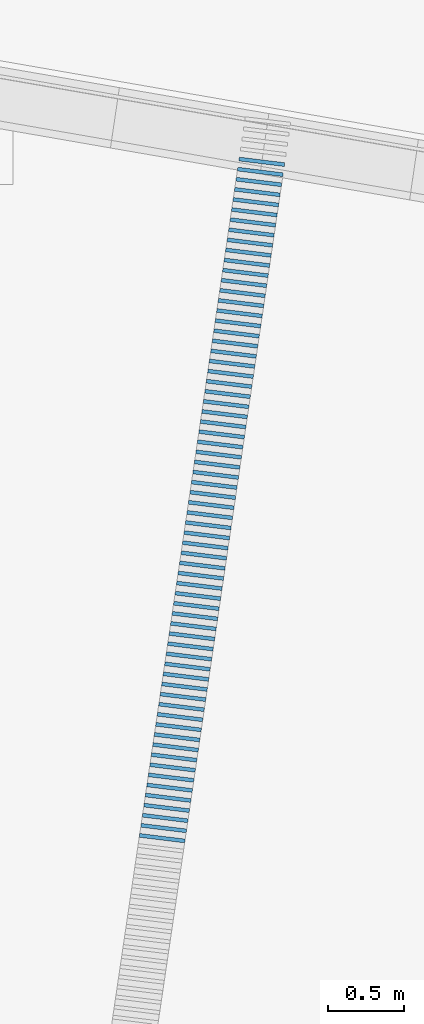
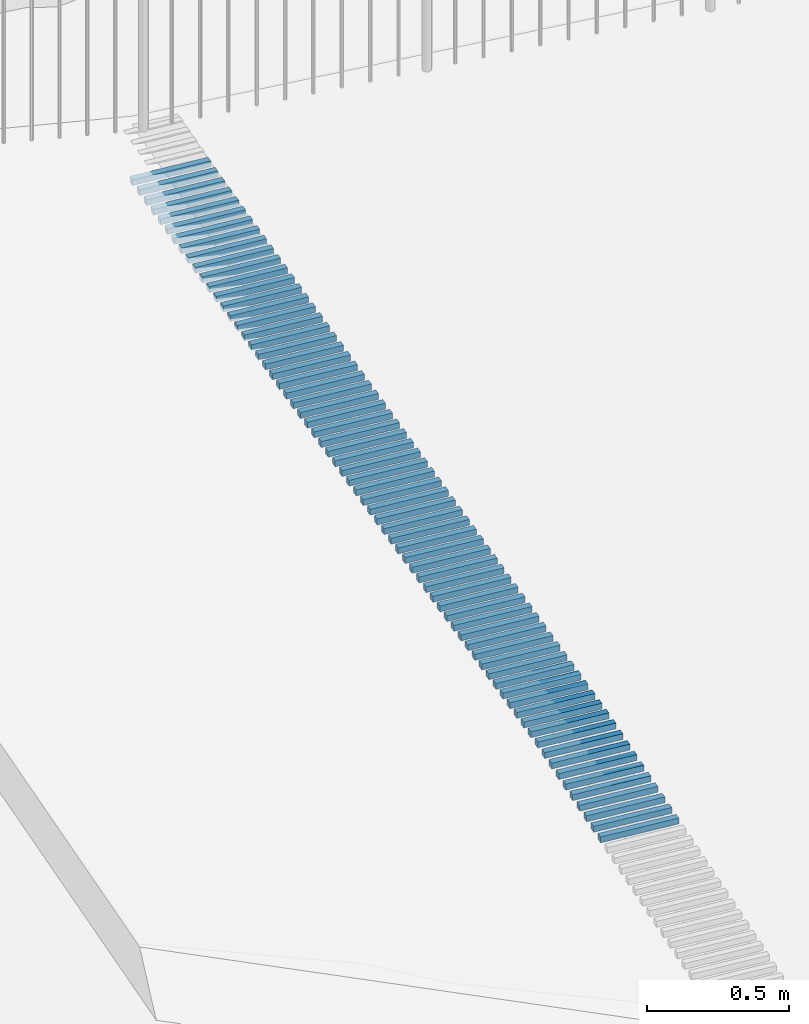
# Not in any storey, part 2 of 45: 68 members.
"""IFC4 model written with IfcOpenShell, lengths in metres."""

from ifc_helpers import new_model, si_unit, direction, frame, origin_with_axes, place, context, subcontext, project, spatial, rectangle, extrude, material, material_profile, profile_set, profile_usage, type_object, element, save


model = new_model("IFC4")

# Units and contexts
model_context = context("Model", 3, precision=1e-05, world=origin_with_axes(), true_north=direction((0.0, 1.0)))
body_context = subcontext(model_context, "Body", "Model", "MODEL_VIEW")
ifc_project = project(units=[si_unit("VOLUMEUNIT", "CUBIC_METRE"), si_unit("LENGTHUNIT", "METRE"), si_unit("AREAUNIT", "SQUARE_METRE")], contexts=[model_context])

# Site
site_placement = place(None, origin_with_axes())
site = spatial("IfcSite", under=ifc_project, at=site_placement, Name="Lares · Rua das Mercês · artigo 4771")

# Members
ifc_material = material(Name="Aço galvanizado / Stahl verzinkt", Category="steel")
ifc_material_profile = material_profile(ifc_material, rectangle(XDim=0.025, YDim=0.025))
ifc_profile_set = profile_set([ifc_material_profile], Name="R0.025")
ifc_profile_usage_1 = profile_usage(ifc_profile_set)
member_type = type_object("IfcMemberType", Name="R0.025 / galvanized", PredefinedType="NOTDEFINED", material=ifc_profile_set)
member_1_placement = place(site_placement, frame((49.015085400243, 6.59258553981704, 15.5699738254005), z_axis=(0.992517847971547, -0.12209963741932, 0.0), x_axis=(-0.12209963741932, -0.992517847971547, 0.0)))
element("IfcMember", 1, at=member_1_placement, inside=site, type_object=member_type, material=ifc_profile_usage_1, Name="Interceção · grelha estacionamento", context=body_context, shape_type="SweptSolid", body=[
    extrude(rectangle(XDim=0.025, YDim=0.025), origin_with_axes(), (0.0, 0.0, 1.0), 0.300000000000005),
])
ifc_profile_usage_2 = profile_usage(ifc_profile_set)
member_2_placement = place(site_placement, frame((49.0248366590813, 6.65880872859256, 15.5718488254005), z_axis=(0.992517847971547, -0.12209963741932, 0.0), x_axis=(-0.12209963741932, -0.992517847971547, 0.0)))
element("IfcMember", 2, at=member_2_placement, inside=site, type_object=member_type, material=ifc_profile_usage_2, Name="Interceção · grelha estacionamento", context=body_context, shape_type="SweptSolid", body=[
    extrude(rectangle(XDim=0.025, YDim=0.025), origin_with_axes(), (0.0, 0.0, 1.0), 0.300000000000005),
])
ifc_profile_usage_3 = profile_usage(ifc_profile_set)
member_3_placement = place(site_placement, frame((49.0345879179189, 6.7250319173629, 15.5737238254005), z_axis=(0.992517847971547, -0.12209963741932, 0.0), x_axis=(-0.12209963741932, -0.992517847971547, 0.0)))
element("IfcMember", 3, at=member_3_placement, inside=site, type_object=member_type, material=ifc_profile_usage_3, Name="Interceção · grelha estacionamento", context=body_context, shape_type="SweptSolid", body=[
    extrude(rectangle(XDim=0.025, YDim=0.025), origin_with_axes(), (0.0, 0.0, 1.0), 0.300000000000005),
])
ifc_profile_usage_4 = profile_usage(ifc_profile_set)
member_4_placement = place(site_placement, frame((49.0443391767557, 6.79125510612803, 15.5755988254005), z_axis=(0.992517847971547, -0.12209963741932, 0.0), x_axis=(-0.12209963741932, -0.992517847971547, 0.0)))
element("IfcMember", 4, at=member_4_placement, inside=site, type_object=member_type, material=ifc_profile_usage_4, Name="Interceção · grelha estacionamento", context=body_context, shape_type="SweptSolid", body=[
    extrude(rectangle(XDim=0.025, YDim=0.025), origin_with_axes(), (0.0, 0.0, 1.0), 0.300000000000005),
])
ifc_profile_usage_5 = profile_usage(ifc_profile_set)
member_5_placement = place(site_placement, frame((49.0540904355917, 6.85747829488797, 15.5774738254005), z_axis=(0.992517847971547, -0.12209963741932, 0.0), x_axis=(-0.12209963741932, -0.992517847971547, 0.0)))
element("IfcMember", 5, at=member_5_placement, inside=site, type_object=member_type, material=ifc_profile_usage_5, Name="Interceção · grelha estacionamento", context=body_context, shape_type="SweptSolid", body=[
    extrude(rectangle(XDim=0.025, YDim=0.025), origin_with_axes(), (0.0, 0.0, 1.0), 0.300000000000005),
])
ifc_profile_usage_6 = profile_usage(ifc_profile_set)
member_6_placement = place(site_placement, frame((49.063841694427, 6.92370148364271, 15.5793488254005), z_axis=(0.992517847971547, -0.12209963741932, 0.0), x_axis=(-0.12209963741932, -0.992517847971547, 0.0)))
element("IfcMember", 6, at=member_6_placement, inside=site, type_object=member_type, material=ifc_profile_usage_6, Name="Interceção · grelha estacionamento", context=body_context, shape_type="SweptSolid", body=[
    extrude(rectangle(XDim=0.025, YDim=0.025), origin_with_axes(), (0.0, 0.0, 1.0), 0.300000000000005),
])
ifc_profile_usage_7 = profile_usage(ifc_profile_set)
member_7_placement = place(site_placement, frame((49.0735929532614, 6.98992467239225, 15.5812238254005), z_axis=(0.992517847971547, -0.12209963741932, 0.0), x_axis=(-0.12209963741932, -0.992517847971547, 0.0)))
element("IfcMember", 7, at=member_7_placement, inside=site, type_object=member_type, material=ifc_profile_usage_7, Name="Interceção · grelha estacionamento", context=body_context, shape_type="SweptSolid", body=[
    extrude(rectangle(XDim=0.025, YDim=0.025), origin_with_axes(), (0.0, 0.0, 1.0), 0.300000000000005),
])
ifc_profile_usage_8 = profile_usage(ifc_profile_set)
member_8_placement = place(site_placement, frame((49.0833442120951, 7.05614786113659, 15.5830988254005), z_axis=(0.992517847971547, -0.12209963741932, 0.0), x_axis=(-0.12209963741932, -0.992517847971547, 0.0)))
element("IfcMember", 8, at=member_8_placement, inside=site, type_object=member_type, material=ifc_profile_usage_8, Name="Interceção · grelha estacionamento", context=body_context, shape_type="SweptSolid", body=[
    extrude(rectangle(XDim=0.025, YDim=0.025), origin_with_axes(), (0.0, 0.0, 1.0), 0.300000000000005),
])
ifc_profile_usage_9 = profile_usage(ifc_profile_set)
member_9_placement = place(site_placement, frame((49.0930954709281, 7.12237104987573, 15.5849738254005), z_axis=(0.992517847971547, -0.12209963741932, 0.0), x_axis=(-0.12209963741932, -0.992517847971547, 0.0)))
element("IfcMember", 9, at=member_9_placement, inside=site, type_object=member_type, material=ifc_profile_usage_9, Name="Interceção · grelha estacionamento", context=body_context, shape_type="SweptSolid", body=[
    extrude(rectangle(XDim=0.025, YDim=0.025), origin_with_axes(), (0.0, 0.0, 1.0), 0.300000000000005),
])
ifc_profile_usage_10 = profile_usage(ifc_profile_set)
member_10_placement = place(site_placement, frame((49.1028467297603, 7.18859423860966, 15.5868488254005), z_axis=(0.992517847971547, -0.12209963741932, 0.0), x_axis=(-0.12209963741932, -0.992517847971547, 0.0)))
element("IfcMember", 10, at=member_10_placement, inside=site, type_object=member_type, material=ifc_profile_usage_10, Name="Interceção · grelha estacionamento", context=body_context, shape_type="SweptSolid", body=[
    extrude(rectangle(XDim=0.025, YDim=0.025), origin_with_axes(), (0.0, 0.0, 1.0), 0.300000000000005),
])
ifc_profile_usage_11 = profile_usage(ifc_profile_set)
member_11_placement = place(site_placement, frame((49.1125979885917, 7.25481742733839, 15.5872761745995), z_axis=(0.992517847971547, -0.12209963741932, 0.0), x_axis=(-0.12209963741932, -0.992517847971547, 0.0)))
element("IfcMember", 11, at=member_11_placement, inside=site, type_object=member_type, material=ifc_profile_usage_11, Name="Interceção · grelha estacionamento", context=body_context, shape_type="SweptSolid", body=[
    extrude(rectangle(XDim=0.025, YDim=0.025), origin_with_axes(), (0.0, 0.0, 1.0), 0.300000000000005),
])
ifc_profile_usage_12 = profile_usage(ifc_profile_set)
member_12_placement = place(site_placement, frame((49.1223492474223, 7.32104061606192, 15.5854011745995), z_axis=(0.992517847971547, -0.12209963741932, 0.0), x_axis=(-0.12209963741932, -0.992517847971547, 0.0)))
element("IfcMember", 12, at=member_12_placement, inside=site, type_object=member_type, material=ifc_profile_usage_12, Name="Interceção · grelha estacionamento", context=body_context, shape_type="SweptSolid", body=[
    extrude(rectangle(XDim=0.025, YDim=0.025), origin_with_axes(), (0.0, 0.0, 1.0), 0.300000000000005),
])
ifc_profile_usage_13 = profile_usage(ifc_profile_set)
member_13_placement = place(site_placement, frame((49.1321005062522, 7.38726380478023, 15.5835261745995), z_axis=(0.992517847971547, -0.12209963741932, 0.0), x_axis=(-0.12209963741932, -0.992517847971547, 0.0)))
element("IfcMember", 13, at=member_13_placement, inside=site, type_object=member_type, material=ifc_profile_usage_13, Name="Interceção · grelha estacionamento", context=body_context, shape_type="SweptSolid", body=[
    extrude(rectangle(XDim=0.025, YDim=0.025), origin_with_axes(), (0.0, 0.0, 1.0), 0.300000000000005),
])
ifc_profile_usage_14 = profile_usage(ifc_profile_set)
member_14_placement = place(site_placement, frame((49.1418517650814, 7.45348699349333, 15.5816511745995), z_axis=(0.992517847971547, -0.12209963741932, 0.0), x_axis=(-0.12209963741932, -0.992517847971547, 0.0)))
element("IfcMember", 14, at=member_14_placement, inside=site, type_object=member_type, material=ifc_profile_usage_14, Name="Interceção · grelha estacionamento", context=body_context, shape_type="SweptSolid", body=[
    extrude(rectangle(XDim=0.025, YDim=0.025), origin_with_axes(), (0.0, 0.0, 1.0), 0.300000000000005),
])
ifc_profile_usage_15 = profile_usage(ifc_profile_set)
member_15_placement = place(site_placement, frame((49.1516030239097, 7.51971018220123, 15.5797761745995), z_axis=(0.992517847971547, -0.12209963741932, 0.0), x_axis=(-0.12209963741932, -0.992517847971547, 0.0)))
element("IfcMember", 15, at=member_15_placement, inside=site, type_object=member_type, material=ifc_profile_usage_15, Name="Interceção · grelha estacionamento", context=body_context, shape_type="SweptSolid", body=[
    extrude(rectangle(XDim=0.025, YDim=0.025), origin_with_axes(), (0.0, 0.0, 1.0), 0.300000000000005),
])
ifc_profile_usage_16 = profile_usage(ifc_profile_set)
member_16_placement = place(site_placement, frame((49.1613542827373, 7.58593337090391, 15.5779011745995), z_axis=(0.992517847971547, -0.12209963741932, 0.0), x_axis=(-0.12209963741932, -0.992517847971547, 0.0)))
element("IfcMember", 16, at=member_16_placement, inside=site, type_object=member_type, material=ifc_profile_usage_16, Name="Interceção · grelha estacionamento", context=body_context, shape_type="SweptSolid", body=[
    extrude(rectangle(XDim=0.025, YDim=0.025), origin_with_axes(), (0.0, 0.0, 1.0), 0.300000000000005),
])
ifc_profile_usage_17 = profile_usage(ifc_profile_set)
member_17_placement = place(site_placement, frame((49.1711055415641, 7.65215655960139, 15.5760261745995), z_axis=(0.992517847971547, -0.12209963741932, 0.0), x_axis=(-0.12209963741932, -0.992517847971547, 0.0)))
element("IfcMember", 17, at=member_17_placement, inside=site, type_object=member_type, material=ifc_profile_usage_17, Name="Interceção · grelha estacionamento", context=body_context, shape_type="SweptSolid", body=[
    extrude(rectangle(XDim=0.025, YDim=0.025), origin_with_axes(), (0.0, 0.0, 1.0), 0.300000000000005),
])
ifc_profile_usage_18 = profile_usage(ifc_profile_set)
member_18_placement = place(site_placement, frame((49.1808568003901, 7.71837974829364, 15.5741511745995), z_axis=(0.992517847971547, -0.12209963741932, 0.0), x_axis=(-0.12209963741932, -0.992517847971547, 0.0)))
element("IfcMember", 18, at=member_18_placement, inside=site, type_object=member_type, material=ifc_profile_usage_18, Name="Interceção · grelha estacionamento", context=body_context, shape_type="SweptSolid", body=[
    extrude(rectangle(XDim=0.025, YDim=0.025), origin_with_axes(), (0.0, 0.0, 1.0), 0.300000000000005),
])
ifc_profile_usage_19 = profile_usage(ifc_profile_set)
member_19_placement = place(site_placement, frame((49.1906080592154, 7.78460293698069, 15.5722761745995), z_axis=(0.992517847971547, -0.12209963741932, 0.0), x_axis=(-0.12209963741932, -0.992517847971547, 0.0)))
element("IfcMember", 19, at=member_19_placement, inside=site, type_object=member_type, material=ifc_profile_usage_19, Name="Interceção · grelha estacionamento", context=body_context, shape_type="SweptSolid", body=[
    extrude(rectangle(XDim=0.025, YDim=0.025), origin_with_axes(), (0.0, 0.0, 1.0), 0.300000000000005),
])
ifc_profile_usage_20 = profile_usage(ifc_profile_set)
member_20_placement = place(site_placement, frame((49.2003593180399, 7.85082612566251, 15.5704011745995), z_axis=(0.992517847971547, -0.12209963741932, 0.0), x_axis=(-0.12209963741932, -0.992517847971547, 0.0)))
element("IfcMember", 20, at=member_20_placement, inside=site, type_object=member_type, material=ifc_profile_usage_20, Name="Interceção · grelha estacionamento", context=body_context, shape_type="SweptSolid", body=[
    extrude(rectangle(XDim=0.025, YDim=0.025), origin_with_axes(), (0.0, 0.0, 1.0), 0.300000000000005),
])
ifc_profile_usage_21 = profile_usage(ifc_profile_set)
member_21_placement = place(site_placement, frame((49.2101105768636, 7.91704931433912, 15.5685261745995), z_axis=(0.992517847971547, -0.12209963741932, 0.0), x_axis=(-0.12209963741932, -0.992517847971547, 0.0)))
element("IfcMember", 21, at=member_21_placement, inside=site, type_object=member_type, material=ifc_profile_usage_21, Name="Interceção · grelha estacionamento", context=body_context, shape_type="SweptSolid", body=[
    extrude(rectangle(XDim=0.025, YDim=0.025), origin_with_axes(), (0.0, 0.0, 1.0), 0.300000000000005),
])
ifc_profile_usage_22 = profile_usage(ifc_profile_set)
member_22_placement = place(site_placement, frame((49.2198618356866, 7.98327250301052, 15.5666511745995), z_axis=(0.992517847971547, -0.12209963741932, 0.0), x_axis=(-0.12209963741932, -0.992517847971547, 0.0)))
element("IfcMember", 22, at=member_22_placement, inside=site, type_object=member_type, material=ifc_profile_usage_22, Name="Interceção · grelha estacionamento", context=body_context, shape_type="SweptSolid", body=[
    extrude(rectangle(XDim=0.025, YDim=0.025), origin_with_axes(), (0.0, 0.0, 1.0), 0.300000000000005),
])
ifc_profile_usage_23 = profile_usage(ifc_profile_set)
member_23_placement = place(site_placement, frame((49.2296130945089, 8.04949569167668, 15.5647761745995), z_axis=(0.992517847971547, -0.12209963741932, 0.0), x_axis=(-0.12209963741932, -0.992517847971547, 0.0)))
element("IfcMember", 23, at=member_23_placement, inside=site, type_object=member_type, material=ifc_profile_usage_23, Name="Interceção · grelha estacionamento", context=body_context, shape_type="SweptSolid", body=[
    extrude(rectangle(XDim=0.025, YDim=0.025), origin_with_axes(), (0.0, 0.0, 1.0), 0.300000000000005),
])
ifc_profile_usage_24 = profile_usage(ifc_profile_set)
member_24_placement = place(site_placement, frame((49.2393643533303, 8.11571888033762, 15.5629011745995), z_axis=(0.992517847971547, -0.12209963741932, 0.0), x_axis=(-0.12209963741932, -0.992517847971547, 0.0)))
element("IfcMember", 24, at=member_24_placement, inside=site, type_object=member_type, material=ifc_profile_usage_24, Name="Interceção · grelha estacionamento", context=body_context, shape_type="SweptSolid", body=[
    extrude(rectangle(XDim=0.025, YDim=0.025), origin_with_axes(), (0.0, 0.0, 1.0), 0.300000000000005),
])
ifc_profile_usage_25 = profile_usage(ifc_profile_set)
member_25_placement = place(site_placement, frame((49.249115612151, 8.18194206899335, 15.5610261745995), z_axis=(0.992517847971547, -0.12209963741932, 0.0), x_axis=(-0.12209963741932, -0.992517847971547, 0.0)))
element("IfcMember", 25, at=member_25_placement, inside=site, type_object=member_type, material=ifc_profile_usage_25, Name="Interceção · grelha estacionamento", context=body_context, shape_type="SweptSolid", body=[
    extrude(rectangle(XDim=0.025, YDim=0.025), origin_with_axes(), (0.0, 0.0, 1.0), 0.300000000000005),
])
ifc_profile_usage_26 = profile_usage(ifc_profile_set)
member_26_placement = place(site_placement, frame((49.2588668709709, 8.24816525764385, 15.5591511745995), z_axis=(0.992517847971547, -0.12209963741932, 0.0), x_axis=(-0.12209963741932, -0.992517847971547, 0.0)))
element("IfcMember", 26, at=member_26_placement, inside=site, type_object=member_type, material=ifc_profile_usage_26, Name="Interceção · grelha estacionamento", context=body_context, shape_type="SweptSolid", body=[
    extrude(rectangle(XDim=0.025, YDim=0.025), origin_with_axes(), (0.0, 0.0, 1.0), 0.300000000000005),
])
ifc_profile_usage_27 = profile_usage(ifc_profile_set)
member_27_placement = place(site_placement, frame((49.26861812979, 8.31438844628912, 15.5572761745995), z_axis=(0.992517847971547, -0.12209963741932, 0.0), x_axis=(-0.12209963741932, -0.992517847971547, 0.0)))
element("IfcMember", 27, at=member_27_placement, inside=site, type_object=member_type, material=ifc_profile_usage_27, Name="Interceção · grelha estacionamento", context=body_context, shape_type="SweptSolid", body=[
    extrude(rectangle(XDim=0.025, YDim=0.025), origin_with_axes(), (0.0, 0.0, 1.0), 0.300000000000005),
])
ifc_profile_usage_28 = profile_usage(ifc_profile_set)
member_28_placement = place(site_placement, frame((49.2783693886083, 8.38061163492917, 15.5554011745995), z_axis=(0.992517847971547, -0.12209963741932, 0.0), x_axis=(-0.12209963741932, -0.992517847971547, 0.0)))
element("IfcMember", 28, at=member_28_placement, inside=site, type_object=member_type, material=ifc_profile_usage_28, Name="Interceção · grelha estacionamento", context=body_context, shape_type="SweptSolid", body=[
    extrude(rectangle(XDim=0.025, YDim=0.025), origin_with_axes(), (0.0, 0.0, 1.0), 0.300000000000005),
])
ifc_profile_usage_29 = profile_usage(ifc_profile_set)
member_29_placement = place(site_placement, frame((49.2881206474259, 8.44683482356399, 15.5535261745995), z_axis=(0.992517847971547, -0.12209963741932, 0.0), x_axis=(-0.12209963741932, -0.992517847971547, 0.0)))
element("IfcMember", 29, at=member_29_placement, inside=site, type_object=member_type, material=ifc_profile_usage_29, Name="Interceção · grelha estacionamento", context=body_context, shape_type="SweptSolid", body=[
    extrude(rectangle(XDim=0.025, YDim=0.025), origin_with_axes(), (0.0, 0.0, 1.0), 0.300000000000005),
])
ifc_profile_usage_30 = profile_usage(ifc_profile_set)
member_30_placement = place(site_placement, frame((49.2978719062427, 8.51305801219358, 15.5516511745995), z_axis=(0.992517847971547, -0.12209963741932, 0.0), x_axis=(-0.12209963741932, -0.992517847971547, 0.0)))
element("IfcMember", 30, at=member_30_placement, inside=site, type_object=member_type, material=ifc_profile_usage_30, Name="Interceção · grelha estacionamento", context=body_context, shape_type="SweptSolid", body=[
    extrude(rectangle(XDim=0.025, YDim=0.025), origin_with_axes(), (0.0, 0.0, 1.0), 0.300000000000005),
])
ifc_profile_usage_31 = profile_usage(ifc_profile_set)
member_31_placement = place(site_placement, frame((49.3076231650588, 8.57928120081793, 15.5497761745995), z_axis=(0.992517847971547, -0.12209963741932, 0.0), x_axis=(-0.12209963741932, -0.992517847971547, 0.0)))
element("IfcMember", 31, at=member_31_placement, inside=site, type_object=member_type, material=ifc_profile_usage_31, Name="Interceção · grelha estacionamento", context=body_context, shape_type="SweptSolid", body=[
    extrude(rectangle(XDim=0.025, YDim=0.025), origin_with_axes(), (0.0, 0.0, 1.0), 0.300000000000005),
])
ifc_profile_usage_32 = profile_usage(ifc_profile_set)
member_32_placement = place(site_placement, frame((49.3173744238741, 8.64550438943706, 15.5479011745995), z_axis=(0.992517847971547, -0.12209963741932, 0.0), x_axis=(-0.12209963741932, -0.992517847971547, 0.0)))
element("IfcMember", 32, at=member_32_placement, inside=site, type_object=member_type, material=ifc_profile_usage_32, Name="Interceção · grelha estacionamento", context=body_context, shape_type="SweptSolid", body=[
    extrude(rectangle(XDim=0.025, YDim=0.025), origin_with_axes(), (0.0, 0.0, 1.0), 0.300000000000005),
])
ifc_profile_usage_33 = profile_usage(ifc_profile_set)
member_33_placement = place(site_placement, frame((49.3271256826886, 8.71172757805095, 15.5460261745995), z_axis=(0.992517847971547, -0.12209963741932, 0.0), x_axis=(-0.12209963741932, -0.992517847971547, 0.0)))
element("IfcMember", 33, at=member_33_placement, inside=site, type_object=member_type, material=ifc_profile_usage_33, Name="Interceção · grelha estacionamento", context=body_context, shape_type="SweptSolid", body=[
    extrude(rectangle(XDim=0.025, YDim=0.025), origin_with_axes(), (0.0, 0.0, 1.0), 0.300000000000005),
])
ifc_profile_usage_34 = profile_usage(ifc_profile_set)
member_34_placement = place(site_placement, frame((49.3368769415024, 8.7779507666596, 15.5441511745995), z_axis=(0.992517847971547, -0.12209963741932, 0.0), x_axis=(-0.12209963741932, -0.992517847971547, 0.0)))
element("IfcMember", 34, at=member_34_placement, inside=site, type_object=member_type, material=ifc_profile_usage_34, Name="Interceção · grelha estacionamento", context=body_context, shape_type="SweptSolid", body=[
    extrude(rectangle(XDim=0.025, YDim=0.025), origin_with_axes(), (0.0, 0.0, 1.0), 0.300000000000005),
])
ifc_profile_usage_35 = profile_usage(ifc_profile_set)
member_35_placement = place(site_placement, frame((49.3466282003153, 8.84417395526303, 15.5422761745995), z_axis=(0.992517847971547, -0.12209963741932, 0.0), x_axis=(-0.12209963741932, -0.992517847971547, 0.0)))
element("IfcMember", 35, at=member_35_placement, inside=site, type_object=member_type, material=ifc_profile_usage_35, Name="Interceção · grelha estacionamento", context=body_context, shape_type="SweptSolid", body=[
    extrude(rectangle(XDim=0.025, YDim=0.025), origin_with_axes(), (0.0, 0.0, 1.0), 0.300000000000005),
])
ifc_profile_usage_36 = profile_usage(ifc_profile_set)
member_36_placement = place(site_placement, frame((49.3563794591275, 8.91039714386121, 15.5404011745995), z_axis=(0.992517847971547, -0.12209963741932, 0.0), x_axis=(-0.12209963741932, -0.992517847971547, 0.0)))
element("IfcMember", 36, at=member_36_placement, inside=site, type_object=member_type, material=ifc_profile_usage_36, Name="Interceção · grelha estacionamento", context=body_context, shape_type="SweptSolid", body=[
    extrude(rectangle(XDim=0.025, YDim=0.025), origin_with_axes(), (0.0, 0.0, 1.0), 0.300000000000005),
])
ifc_profile_usage_37 = profile_usage(ifc_profile_set)
member_37_placement = place(site_placement, frame((49.3661307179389, 8.97662033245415, 15.5385261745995), z_axis=(0.992517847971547, -0.12209963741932, 0.0), x_axis=(-0.12209963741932, -0.992517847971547, 0.0)))
element("IfcMember", 37, at=member_37_placement, inside=site, type_object=member_type, material=ifc_profile_usage_37, Name="Interceção · grelha estacionamento", context=body_context, shape_type="SweptSolid", body=[
    extrude(rectangle(XDim=0.025, YDim=0.025), origin_with_axes(), (0.0, 0.0, 1.0), 0.300000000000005),
])
ifc_profile_usage_38 = profile_usage(ifc_profile_set)
member_38_placement = place(site_placement, frame((49.3758819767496, 9.04284352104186, 15.5366511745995), z_axis=(0.992517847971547, -0.12209963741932, 0.0), x_axis=(-0.12209963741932, -0.992517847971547, 0.0)))
element("IfcMember", 38, at=member_38_placement, inside=site, type_object=member_type, material=ifc_profile_usage_38, Name="Interceção · grelha estacionamento", context=body_context, shape_type="SweptSolid", body=[
    extrude(rectangle(XDim=0.025, YDim=0.025), origin_with_axes(), (0.0, 0.0, 1.0), 0.300000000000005),
])
ifc_profile_usage_39 = profile_usage(ifc_profile_set)
member_39_placement = place(site_placement, frame((49.3856332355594, 9.10906670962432, 15.5347761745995), z_axis=(0.992517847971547, -0.12209963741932, 0.0), x_axis=(-0.12209963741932, -0.992517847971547, 0.0)))
element("IfcMember", 39, at=member_39_placement, inside=site, type_object=member_type, material=ifc_profile_usage_39, Name="Interceção · grelha estacionamento", context=body_context, shape_type="SweptSolid", body=[
    extrude(rectangle(XDim=0.025, YDim=0.025), origin_with_axes(), (0.0, 0.0, 1.0), 0.300000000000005),
])
ifc_profile_usage_40 = profile_usage(ifc_profile_set)
member_40_placement = place(site_placement, frame((49.3953844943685, 9.17528989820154, 15.5329011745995), z_axis=(0.992517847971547, -0.12209963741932, 0.0), x_axis=(-0.12209963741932, -0.992517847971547, 0.0)))
element("IfcMember", 40, at=member_40_placement, inside=site, type_object=member_type, material=ifc_profile_usage_40, Name="Interceção · grelha estacionamento", context=body_context, shape_type="SweptSolid", body=[
    extrude(rectangle(XDim=0.025, YDim=0.025), origin_with_axes(), (0.0, 0.0, 1.0), 0.300000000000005),
])
ifc_profile_usage_41 = profile_usage(ifc_profile_set)
member_41_placement = place(site_placement, frame((49.4051357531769, 9.24151308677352, 15.5310261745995), z_axis=(0.992517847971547, -0.12209963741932, 0.0), x_axis=(-0.12209963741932, -0.992517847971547, 0.0)))
element("IfcMember", 41, at=member_41_placement, inside=site, type_object=member_type, material=ifc_profile_usage_41, Name="Interceção · grelha estacionamento", context=body_context, shape_type="SweptSolid", body=[
    extrude(rectangle(XDim=0.025, YDim=0.025), origin_with_axes(), (0.0, 0.0, 1.0), 0.300000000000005),
])
ifc_profile_usage_42 = profile_usage(ifc_profile_set)
member_42_placement = place(site_placement, frame((49.4148870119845, 9.30773627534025, 15.5291511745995), z_axis=(0.992517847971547, -0.12209963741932, 0.0), x_axis=(-0.12209963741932, -0.992517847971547, 0.0)))
element("IfcMember", 42, at=member_42_placement, inside=site, type_object=member_type, material=ifc_profile_usage_42, Name="Interceção · grelha estacionamento", context=body_context, shape_type="SweptSolid", body=[
    extrude(rectangle(XDim=0.025, YDim=0.025), origin_with_axes(), (0.0, 0.0, 1.0), 0.300000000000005),
])
ifc_profile_usage_43 = profile_usage(ifc_profile_set)
member_43_placement = place(site_placement, frame((49.4246382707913, 9.37395946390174, 15.5272761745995), z_axis=(0.992517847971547, -0.12209963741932, 0.0), x_axis=(-0.12209963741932, -0.992517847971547, 0.0)))
element("IfcMember", 43, at=member_43_placement, inside=site, type_object=member_type, material=ifc_profile_usage_43, Name="Interceção · grelha estacionamento", context=body_context, shape_type="SweptSolid", body=[
    extrude(rectangle(XDim=0.025, YDim=0.025), origin_with_axes(), (0.0, 0.0, 1.0), 0.300000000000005),
])
ifc_profile_usage_44 = profile_usage(ifc_profile_set)
member_44_placement = place(site_placement, frame((49.4343895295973, 9.44018265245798, 15.5254011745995), z_axis=(0.992517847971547, -0.12209963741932, 0.0), x_axis=(-0.12209963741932, -0.992517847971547, 0.0)))
element("IfcMember", 44, at=member_44_placement, inside=site, type_object=member_type, material=ifc_profile_usage_44, Name="Interceção · grelha estacionamento", context=body_context, shape_type="SweptSolid", body=[
    extrude(rectangle(XDim=0.025, YDim=0.025), origin_with_axes(), (0.0, 0.0, 1.0), 0.300000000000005),
])
ifc_profile_usage_45 = profile_usage(ifc_profile_set)
member_45_placement = place(site_placement, frame((49.4441407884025, 9.50640584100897, 15.5235261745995), z_axis=(0.992517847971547, -0.12209963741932, 0.0), x_axis=(-0.12209963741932, -0.992517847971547, 0.0)))
element("IfcMember", 45, at=member_45_placement, inside=site, type_object=member_type, material=ifc_profile_usage_45, Name="Interceção · grelha estacionamento", context=body_context, shape_type="SweptSolid", body=[
    extrude(rectangle(XDim=0.025, YDim=0.025), origin_with_axes(), (0.0, 0.0, 1.0), 0.300000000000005),
])
ifc_profile_usage_46 = profile_usage(ifc_profile_set)
member_46_placement = place(site_placement, frame((49.453892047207, 9.57262902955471, 15.5216511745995), z_axis=(0.992517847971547, -0.12209963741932, 0.0), x_axis=(-0.12209963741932, -0.992517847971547, 0.0)))
element("IfcMember", 46, at=member_46_placement, inside=site, type_object=member_type, material=ifc_profile_usage_46, Name="Interceção · grelha estacionamento", context=body_context, shape_type="SweptSolid", body=[
    extrude(rectangle(XDim=0.025, YDim=0.025), origin_with_axes(), (0.0, 0.0, 1.0), 0.300000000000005),
])
ifc_profile_usage_47 = profile_usage(ifc_profile_set)
member_47_placement = place(site_placement, frame((49.4636433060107, 9.63885221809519, 15.5197761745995), z_axis=(0.992517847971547, -0.12209963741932, 0.0), x_axis=(-0.12209963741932, -0.992517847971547, 0.0)))
element("IfcMember", 47, at=member_47_placement, inside=site, type_object=member_type, material=ifc_profile_usage_47, Name="Interceção · grelha estacionamento", context=body_context, shape_type="SweptSolid", body=[
    extrude(rectangle(XDim=0.025, YDim=0.025), origin_with_axes(), (0.0, 0.0, 1.0), 0.300000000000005),
])
ifc_profile_usage_48 = profile_usage(ifc_profile_set)
member_48_placement = place(site_placement, frame((49.4733945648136, 9.70507540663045, 15.5179011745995), z_axis=(0.992517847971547, -0.12209963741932, 0.0), x_axis=(-0.12209963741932, -0.992517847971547, 0.0)))
element("IfcMember", 48, at=member_48_placement, inside=site, type_object=member_type, material=ifc_profile_usage_48, Name="Interceção · grelha estacionamento", context=body_context, shape_type="SweptSolid", body=[
    extrude(rectangle(XDim=0.025, YDim=0.025), origin_with_axes(), (0.0, 0.0, 1.0), 0.300000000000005),
])
ifc_profile_usage_49 = profile_usage(ifc_profile_set)
member_49_placement = place(site_placement, frame((49.4831458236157, 9.77129859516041, 15.5160261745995), z_axis=(0.992517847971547, -0.12209963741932, 0.0), x_axis=(-0.12209963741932, -0.992517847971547, 0.0)))
element("IfcMember", 49, at=member_49_placement, inside=site, type_object=member_type, material=ifc_profile_usage_49, Name="Interceção · grelha estacionamento", context=body_context, shape_type="SweptSolid", body=[
    extrude(rectangle(XDim=0.025, YDim=0.025), origin_with_axes(), (0.0, 0.0, 1.0), 0.300000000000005),
])
ifc_profile_usage_50 = profile_usage(ifc_profile_set)
member_50_placement = place(site_placement, frame((49.4928970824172, 9.83752178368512, 15.5141511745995), z_axis=(0.992517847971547, -0.12209963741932, 0.0), x_axis=(-0.12209963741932, -0.992517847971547, 0.0)))
element("IfcMember", 50, at=member_50_placement, inside=site, type_object=member_type, material=ifc_profile_usage_50, Name="Interceção · grelha estacionamento", context=body_context, shape_type="SweptSolid", body=[
    extrude(rectangle(XDim=0.025, YDim=0.025), origin_with_axes(), (0.0, 0.0, 1.0), 0.300000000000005),
])
ifc_profile_usage_51 = profile_usage(ifc_profile_set)
member_51_placement = place(site_placement, frame((49.5026483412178, 9.90374497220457, 15.5122761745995), z_axis=(0.992517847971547, -0.12209963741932, 0.0), x_axis=(-0.12209963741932, -0.992517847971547, 0.0)))
element("IfcMember", 51, at=member_51_placement, inside=site, type_object=member_type, material=ifc_profile_usage_51, Name="Interceção · grelha estacionamento", context=body_context, shape_type="SweptSolid", body=[
    extrude(rectangle(XDim=0.025, YDim=0.025), origin_with_axes(), (0.0, 0.0, 1.0), 0.300000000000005),
])
ifc_profile_usage_52 = profile_usage(ifc_profile_set)
member_52_placement = place(site_placement, frame((49.5123996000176, 9.96996816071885, 15.5104011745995), z_axis=(0.992517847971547, -0.12209963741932, 0.0), x_axis=(-0.12209963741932, -0.992517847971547, 0.0)))
element("IfcMember", 52, at=member_52_placement, inside=site, type_object=member_type, material=ifc_profile_usage_52, Name="Interceção · grelha estacionamento", context=body_context, shape_type="SweptSolid", body=[
    extrude(rectangle(XDim=0.025, YDim=0.025), origin_with_axes(), (0.0, 0.0, 1.0), 0.300000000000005),
])
ifc_profile_usage_53 = profile_usage(ifc_profile_set)
member_53_placement = place(site_placement, frame((49.5221508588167, 10.0361913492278, 15.5085261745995), z_axis=(0.992517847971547, -0.12209963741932, 0.0), x_axis=(-0.12209963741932, -0.992517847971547, 0.0)))
element("IfcMember", 53, at=member_53_placement, inside=site, type_object=member_type, material=ifc_profile_usage_53, Name="Interceção · grelha estacionamento", context=body_context, shape_type="SweptSolid", body=[
    extrude(rectangle(XDim=0.025, YDim=0.025), origin_with_axes(), (0.0, 0.0, 1.0), 0.300000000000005),
])
ifc_profile_usage_54 = profile_usage(ifc_profile_set)
member_54_placement = place(site_placement, frame((49.5319021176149, 10.1024145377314, 15.5066511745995), z_axis=(0.992517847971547, -0.12209963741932, 0.0), x_axis=(-0.12209963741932, -0.992517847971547, 0.0)))
element("IfcMember", 54, at=member_54_placement, inside=site, type_object=member_type, material=ifc_profile_usage_54, Name="Interceção · grelha estacionamento", context=body_context, shape_type="SweptSolid", body=[
    extrude(rectangle(XDim=0.025, YDim=0.025), origin_with_axes(), (0.0, 0.0, 1.0), 0.300000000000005),
])
ifc_profile_usage_55 = profile_usage(ifc_profile_set)
member_55_placement = place(site_placement, frame((49.5416533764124, 10.1686377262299, 15.5047761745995), z_axis=(0.992517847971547, -0.12209963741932, 0.0), x_axis=(-0.12209963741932, -0.992517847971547, 0.0)))
element("IfcMember", 55, at=member_55_placement, inside=site, type_object=member_type, material=ifc_profile_usage_55, Name="Interceção · grelha estacionamento", context=body_context, shape_type="SweptSolid", body=[
    extrude(rectangle(XDim=0.025, YDim=0.025), origin_with_axes(), (0.0, 0.0, 1.0), 0.300000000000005),
])
ifc_profile_usage_56 = profile_usage(ifc_profile_set)
member_56_placement = place(site_placement, frame((49.5514046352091, 10.234860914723, 15.5029011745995), z_axis=(0.992517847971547, -0.12209963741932, 0.0), x_axis=(-0.12209963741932, -0.992517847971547, 0.0)))
element("IfcMember", 56, at=member_56_placement, inside=site, type_object=member_type, material=ifc_profile_usage_56, Name="Interceção · grelha estacionamento", context=body_context, shape_type="SweptSolid", body=[
    extrude(rectangle(XDim=0.025, YDim=0.025), origin_with_axes(), (0.0, 0.0, 1.0), 0.300000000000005),
])
ifc_profile_usage_57 = profile_usage(ifc_profile_set)
member_57_placement = place(site_placement, frame((49.5611558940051, 10.3010841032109, 15.5010261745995), z_axis=(0.992517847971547, -0.12209963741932, 0.0), x_axis=(-0.12209963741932, -0.992517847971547, 0.0)))
element("IfcMember", 57, at=member_57_placement, inside=site, type_object=member_type, material=ifc_profile_usage_57, Name="Interceção · grelha estacionamento", context=body_context, shape_type="SweptSolid", body=[
    extrude(rectangle(XDim=0.025, YDim=0.025), origin_with_axes(), (0.0, 0.0, 1.0), 0.300000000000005),
])
ifc_profile_usage_58 = profile_usage(ifc_profile_set)
member_58_placement = place(site_placement, frame((49.5709071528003, 10.3673072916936, 15.4991511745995), z_axis=(0.992517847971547, -0.12209963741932, 0.0), x_axis=(-0.12209963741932, -0.992517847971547, 0.0)))
element("IfcMember", 58, at=member_58_placement, inside=site, type_object=member_type, material=ifc_profile_usage_58, Name="Interceção · grelha estacionamento", context=body_context, shape_type="SweptSolid", body=[
    extrude(rectangle(XDim=0.025, YDim=0.025), origin_with_axes(), (0.0, 0.0, 1.0), 0.300000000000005),
])
ifc_profile_usage_59 = profile_usage(ifc_profile_set)
member_59_placement = place(site_placement, frame((49.5806584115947, 10.4335304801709, 15.4972761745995), z_axis=(0.992517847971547, -0.12209963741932, 0.0), x_axis=(-0.12209963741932, -0.992517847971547, 0.0)))
element("IfcMember", 59, at=member_59_placement, inside=site, type_object=member_type, material=ifc_profile_usage_59, Name="Interceção · grelha estacionamento", context=body_context, shape_type="SweptSolid", body=[
    extrude(rectangle(XDim=0.025, YDim=0.025), origin_with_axes(), (0.0, 0.0, 1.0), 0.300000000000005),
])
ifc_profile_usage_60 = profile_usage(ifc_profile_set)
member_60_placement = place(site_placement, frame((49.5904096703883, 10.499753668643, 15.4954011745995), z_axis=(0.992517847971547, -0.12209963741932, 0.0), x_axis=(-0.12209963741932, -0.992517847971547, 0.0)))
element("IfcMember", 60, at=member_60_placement, inside=site, type_object=member_type, material=ifc_profile_usage_60, Name="Interceção · grelha estacionamento", context=body_context, shape_type="SweptSolid", body=[
    extrude(rectangle(XDim=0.025, YDim=0.025), origin_with_axes(), (0.0, 0.0, 1.0), 0.300000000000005),
])
ifc_profile_usage_61 = profile_usage(ifc_profile_set)
member_61_placement = place(site_placement, frame((49.6001609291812, 10.5659768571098, 15.4935261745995), z_axis=(0.992517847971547, -0.12209963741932, 0.0), x_axis=(-0.12209963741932, -0.992517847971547, 0.0)))
element("IfcMember", 61, at=member_61_placement, inside=site, type_object=member_type, material=ifc_profile_usage_61, Name="Interceção · grelha estacionamento", context=body_context, shape_type="SweptSolid", body=[
    extrude(rectangle(XDim=0.025, YDim=0.025), origin_with_axes(), (0.0, 0.0, 1.0), 0.300000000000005),
])
ifc_profile_usage_62 = profile_usage(ifc_profile_set)
member_62_placement = place(site_placement, frame((49.6099121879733, 10.6322000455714, 15.4916511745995), z_axis=(0.992517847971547, -0.12209963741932, 0.0), x_axis=(-0.12209963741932, -0.992517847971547, 0.0)))
element("IfcMember", 62, at=member_62_placement, inside=site, type_object=member_type, material=ifc_profile_usage_62, Name="Interceção · grelha estacionamento", context=body_context, shape_type="SweptSolid", body=[
    extrude(rectangle(XDim=0.025, YDim=0.025), origin_with_axes(), (0.0, 0.0, 1.0), 0.300000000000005),
])
ifc_profile_usage_63 = profile_usage(ifc_profile_set)
member_63_placement = place(site_placement, frame((49.6196634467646, 10.6984232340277, 15.4897761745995), z_axis=(0.992517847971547, -0.12209963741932, 0.0), x_axis=(-0.12209963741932, -0.992517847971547, 0.0)))
element("IfcMember", 63, at=member_63_placement, inside=site, type_object=member_type, material=ifc_profile_usage_63, Name="Interceção · grelha estacionamento", context=body_context, shape_type="SweptSolid", body=[
    extrude(rectangle(XDim=0.025, YDim=0.025), origin_with_axes(), (0.0, 0.0, 1.0), 0.300000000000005),
])
ifc_profile_usage_64 = profile_usage(ifc_profile_set)
member_64_placement = place(site_placement, frame((49.6294147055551, 10.7646464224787, 15.4879011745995), z_axis=(0.992517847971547, -0.12209963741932, 0.0), x_axis=(-0.12209963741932, -0.992517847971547, 0.0)))
element("IfcMember", 64, at=member_64_placement, inside=site, type_object=member_type, material=ifc_profile_usage_64, Name="Interceção · grelha estacionamento", context=body_context, shape_type="SweptSolid", body=[
    extrude(rectangle(XDim=0.025, YDim=0.025), origin_with_axes(), (0.0, 0.0, 1.0), 0.300000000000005),
])
ifc_profile_usage_65 = profile_usage(ifc_profile_set)
member_65_placement = place(site_placement, frame((49.6391659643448, 10.8308696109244, 15.4860261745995), z_axis=(0.992517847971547, -0.12209963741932, 0.0), x_axis=(-0.12209963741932, -0.992517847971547, 0.0)))
element("IfcMember", 65, at=member_65_placement, inside=site, type_object=member_type, material=ifc_profile_usage_65, Name="Interceção · grelha estacionamento", context=body_context, shape_type="SweptSolid", body=[
    extrude(rectangle(XDim=0.025, YDim=0.025), origin_with_axes(), (0.0, 0.0, 1.0), 0.300000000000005),
])
ifc_profile_usage_66 = profile_usage(ifc_profile_set)
member_66_placement = place(site_placement, frame((49.6489172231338, 10.8970927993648, 15.4841511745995), z_axis=(0.992517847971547, -0.12209963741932, 0.0), x_axis=(-0.12209963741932, -0.992517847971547, 0.0)))
element("IfcMember", 66, at=member_66_placement, inside=site, type_object=member_type, material=ifc_profile_usage_66, Name="Interceção · grelha estacionamento", context=body_context, shape_type="SweptSolid", body=[
    extrude(rectangle(XDim=0.025, YDim=0.025), origin_with_axes(), (0.0, 0.0, 1.0), 0.300000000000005),
])
ifc_profile_usage_67 = profile_usage(ifc_profile_set)
member_67_placement = place(site_placement, frame((49.658668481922, 10.9633159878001, 15.4829738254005), z_axis=(0.992517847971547, -0.12209963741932, 0.0), x_axis=(-0.12209963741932, -0.992517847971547, 0.0)))
element("IfcMember", 67, at=member_67_placement, inside=site, type_object=member_type, material=ifc_profile_usage_67, Name="Interceção · grelha estacionamento", context=body_context, shape_type="SweptSolid", body=[
    extrude(rectangle(XDim=0.025, YDim=0.025), origin_with_axes(), (0.0, 0.0, 1.0), 0.300000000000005),
])
ifc_profile_usage_68 = profile_usage(ifc_profile_set)
member_68_placement = place(site_placement, frame((49.6684197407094, 11.02953917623, 15.4829738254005), z_axis=(0.992517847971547, -0.12209963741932, 0.0), x_axis=(-0.12209963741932, -0.992517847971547, 0.0)))
element("IfcMember", 68, at=member_68_placement, inside=site, type_object=member_type, material=ifc_profile_usage_68, Name="Interceção · grelha estacionamento", context=body_context, shape_type="SweptSolid", body=[
    extrude(rectangle(XDim=0.025, YDim=0.025), origin_with_axes(), (0.0, 0.0, 1.0), 0.300000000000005),
])

save(model, "model.ifc")
